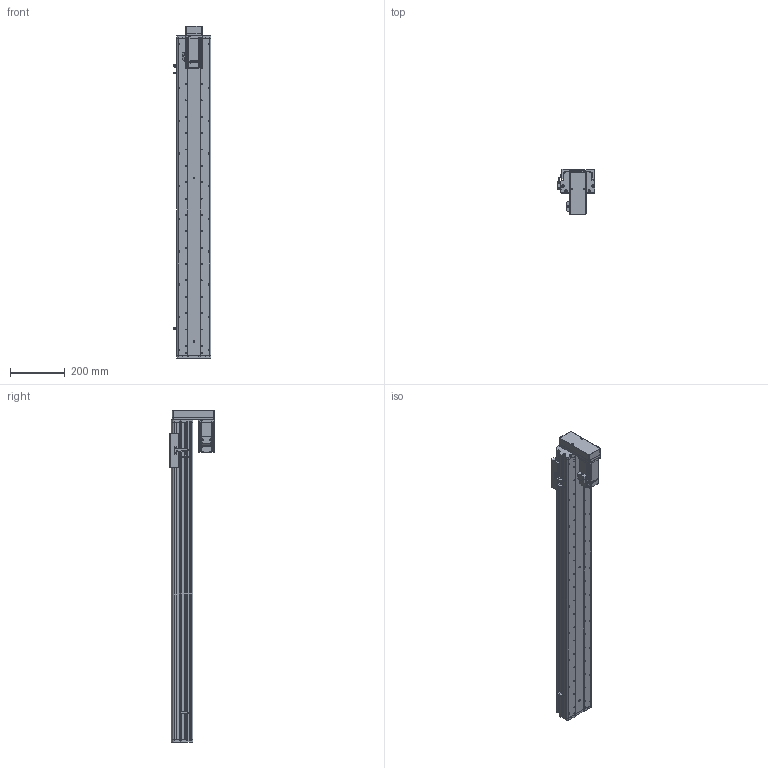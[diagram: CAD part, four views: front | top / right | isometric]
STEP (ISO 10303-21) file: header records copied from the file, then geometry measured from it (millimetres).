
FILE_DESCRIPTION (( 'STEP AP214' ), '1' );
FILE_NAME ('KSD125S-S950-MD-CM.STEP', '2017-10-21T08:15:37', ( '微软用户' ), ( '微软中国' ), 'SwSTEP 2.0', 'SolidWorks 2014', '' );
FILE_SCHEMA (( 'AUTOMOTIVE_DESIGN' ));
Length unit declared in the file: millimetre
Products named in the file (16): KSD125S-S950-MD-CM; 125遵悵誘欶奻狟殏; 125宽马达安装板连板上下折丝杆同步带; HTPA30S3M150_A_H6_a佪裝蚚; HTPA30S3M150_A_H6_a萇儂蚚; KSD125S-950俴最佪裝滅鳥裔; KSD125S-950俴最佪裝菁啣; KSD125-賑雄釱1; MHMD042G1CA_2_03; 拸萇儂釱滅袉菜; 拸萇儂釱滅袉菜-1; 覜茼え68遵圉猾敕; U倰嫖萇假蚾璃; U倰嫖萇EEㄜSX672; ヶ傷啣-125遵耀郪; 125-帣傷啣1
Assembly tree (19 placements, depth 2):
  KSD125S-S950-MD-CM
    125-帣傷啣1
    ヶ傷啣-125遵耀郪
    U倰嫖萇EEㄜSX672  x3
    U倰嫖萇假蚾璃  x3
    覜茼え68遵圉猾敕
    拸萇儂釱滅袉菜-1
    拸萇儂釱滅袉菜
    MHMD042G1CA_2_03
    KSD125-賑雄釱1
    KSD125S-950俴最佪裝菁啣
    KSD125S-950俴最佪裝滅鳥裔
    HTPA30S3M150_A_H6_a萇儂蚚
    HTPA30S3M150_A_H6_a佪裝蚚
    125宽马达安装板连板上下折丝杆同步带
    125遵悵誘欶奻狟殏
Bounding box: 138.7 x 165 x 1217.5 mm (x, y, z)
Volume: 3815466.9 mm3; surface area: 1284566.2 mm2
Topology: 18 solids, 21 shells, 2255 faces, 6543 edges, 4317 vertices
Faces by surface type: cylinder 1426, plane 688, cone 119, bspline 22
Entity records: 81107 total; most frequent: CARTESIAN_POINT 16189, DIRECTION 12457, ORIENTED_EDGE 11594, EDGE_CURVE 5875, AXIS2_PLACEMENT_3D 4827, VERTEX_POINT 3909, VECTOR 2803, LINE 2803
